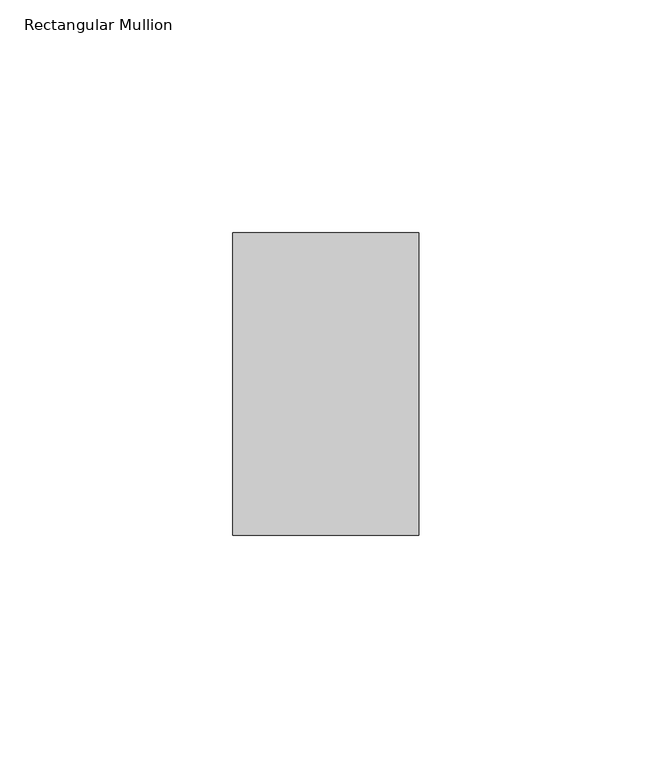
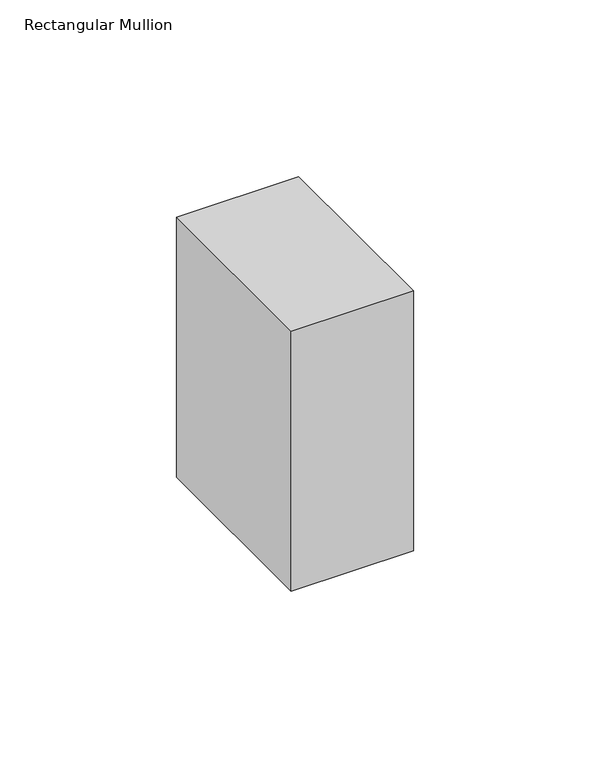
"""IFC4 building model written with IfcOpenShell, lengths in millimetres: member geometry, Rectangular Mullion : Batten_Timber_Modinex_Austratus_Grid_Fascia_40x65_Blackbutt."""

from ifc_helpers import new_model, si_unit, frame, origin, place, context, project, spatial, polyline, outline, extrude, source, transform, mapped, element, save


def rectangular_mullion_14538bb6(model_context):
    return source(origin(), model_context, "Body", "SweptSolid", [
        extrude(outline(polyline([(-20.0, 65.0), (20.0, 65.0), (20.0, 0.0), (-20.0, 0.0), (-20.0, 65.0)])), frame((0.0, 0.0, -90.0), z_axis=(0.0, 0.0, 1.0), x_axis=(1.0, 0.0, 0.0)), (0.0, 0.0, 1.0), 90.0),
    ])


if __name__ == "__main__":
    model = new_model("IFC4")
    model_context = context("Model", 3, world=origin())
    ifc_project = project(units=[si_unit("LENGTHUNIT", "METRE", prefix="MILLI")], contexts=[model_context])
    site = spatial("IfcSite", under=ifc_project)
    building = spatial("IfcBuilding", under=site)
    placement = place(None, origin())
    rectangular_mullion_shape = rectangular_mullion_14538bb6(model_context)
    element("IfcMember", 1, ObjectType="Rectangular Mullion : Batten_Timber_Modinex_Austratus_Grid_Fascia_40x65_Blackbutt", at=placement, inside=building, context=model_context, shape_type="MappedRepresentation", body=[
        mapped(rectangular_mullion_shape, transform((0.0, 0.0, 0.0), x_axis=(1.0, 0.0, 0.0), y_axis=(0.0, 1.0, 0.0), z_axis=(0.0, 0.0, 1.0))),
    ])
    save(model, "model.ifc")
